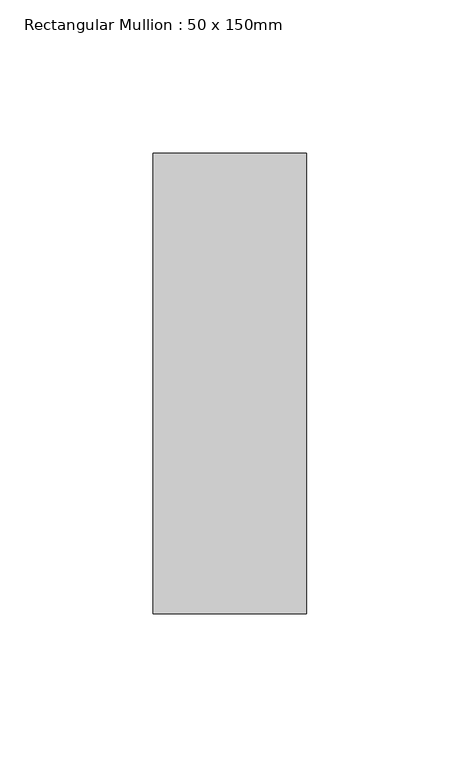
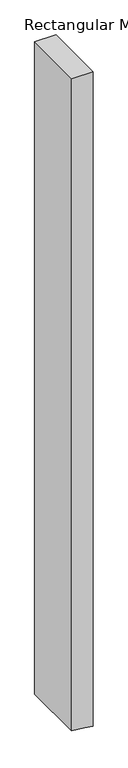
"""IFC4 building model written with IfcOpenShell, lengths in millimetres: member geometry, Rectangular Mullion : 50 x 150mm."""

from ifc_helpers import new_model, si_unit, frame, origin, place, context, project, spatial, polyline, outline, extrude, source, transform, mapped, element, save


def rectangular_mullion_50_x_150mm_a7a6435d(model_context):
    return source(origin(), model_context, "Body", "SweptSolid", [
        extrude(outline(polyline([(0.0, 25.0), (0.0, -25.0), (-1613.8376699, -25.0), (-1617.3178292, 5.6423937), (-1619.5163373, 25.0), (0.0, 25.0)])), frame((0.0, -75.0, 0.0), z_axis=(0.0, 1.0, 0.0), x_axis=(0.0, 0.0, 1.0)), (0.0, 0.0, 1.0), 150.0),
    ])


if __name__ == "__main__":
    model = new_model("IFC4")
    model_context = context("Model", 3, world=origin())
    ifc_project = project(units=[si_unit("LENGTHUNIT", "METRE", prefix="MILLI")], contexts=[model_context])
    site = spatial("IfcSite", under=ifc_project)
    building = spatial("IfcBuilding", under=site)
    placement = place(None, origin())
    rectangular_mullion_50_x_150mm_shape = rectangular_mullion_50_x_150mm_a7a6435d(model_context)
    element("IfcMember", 1, ObjectType="Rectangular Mullion : 50 x 150mm", at=placement, inside=building, context=model_context, shape_type="MappedRepresentation", body=[
        mapped(rectangular_mullion_50_x_150mm_shape, transform((0.0, 0.0, 0.0), x_axis=(1.0, 0.0, 0.0), y_axis=(0.0, 1.0, 0.0), z_axis=(0.0, 0.0, 1.0))),
    ])
    save(model, "model.ifc")
